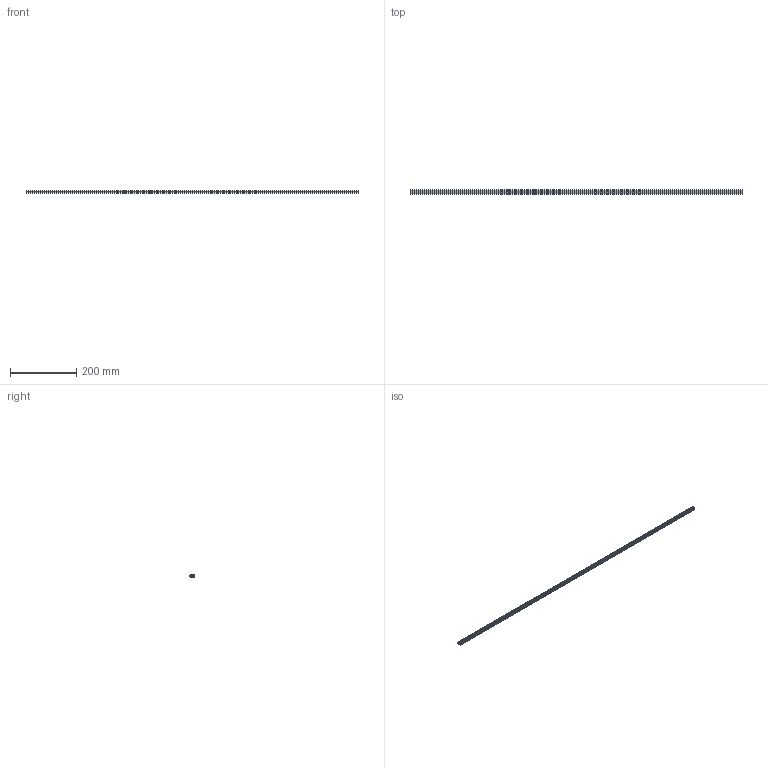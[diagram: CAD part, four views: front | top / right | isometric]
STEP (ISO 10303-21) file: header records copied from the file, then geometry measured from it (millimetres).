
FILE_DESCRIPTION (( 'STEP AP214' ), '1' );
FILE_NAME ('J3MPS.step', '2017-05-24T07:39:43', ( 'admin' ), ( '' ), 'SwSTEP 2.0', 'SolidWorks 2014', '' );
FILE_SCHEMA (( 'AUTOMOTIVE_DESIGN' ));
Length unit declared in the file: millimetre
Products named in the file (1): J3MPS
Bounding box: 1000 x 13.35 x 7.23 mm (x, y, z)
Volume: 29709.9 mm3; surface area: 60959.7 mm2
Topology: 1 solids, 1 shells, 53 faces, 153 edges, 102 vertices
Faces by surface type: plane 28, cylinder 25
Entity records: 1791 total; most frequent: DIRECTION 311, CARTESIAN_POINT 309, ORIENTED_EDGE 306, EDGE_CURVE 153, AXIS2_PLACEMENT_3D 104, VECTOR 103, LINE 103, VERTEX_POINT 102
